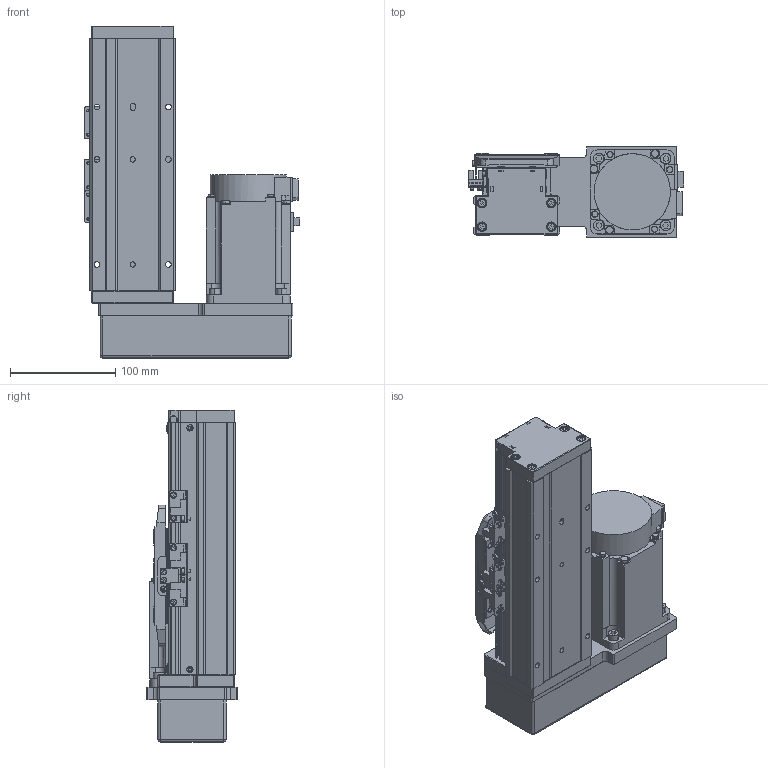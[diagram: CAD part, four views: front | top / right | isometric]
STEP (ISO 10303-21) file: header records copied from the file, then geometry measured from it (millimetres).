
FILE_DESCRIPTION (( 'STEP AP203' ), '1' );
FILE_NAME ('GTH8-50-BR-M75-C4.step', '2023-02-14T02:33:43', ( '微软用户' ), ( '微软中国' ), 'SwSTEP 2.0', 'SolidWorks 2020', '' );
FILE_SCHEMA (( 'CONFIG_CONTROL_DESIGN' ));
Length unit declared in the file: millimetre
Products named in the file (18): GTH80-006; GTH50-024; GTH8-50-BR-M75-C4; GTH80-013; GTH50-023; GBT 70.3-M3℅6; GBT96.1-2002 3×0.8; GTH80-022; BTH-M3X5X6; GTH80-001_50; GBT 70.1-M3℅6; CTHA86-015-3_CTHA86-015-4; GTH80-003; GBT 70.1-M4×16; CTHA86-035; GTH80-004; GTH80-028; hg-kn73j_-s100
Assembly tree (57 placements, depth 2):
  GTH8-50-BR-M75-C4
    GTH80-001_50
    GTH80-003
    GTH80-004
    GTH80-006
    GTH80-013
    GBT 70.3-M3℅6  x4
    GTH80-022
    GBT 70.1-M3℅6  x14
    GBT 70.1-M4×16  x8
    GTH80-028  x2
    GTH50-024  x3
    GTH50-023  x3
    GBT96.1-2002 3×0.8  x6
    BTH-M3X5X6  x8
    CTHA86-015-3_CTHA86-015-4
    CTHA86-035
    hg-kn73j_-s100
Bounding box: 204.7 x 87 x 316 mm (x, y, z)
Volume: 2587891.8 mm3; surface area: 321684.2 mm2
Topology: 59 solids, 59 shells, 2175 faces, 5034 edges, 3080 vertices
Faces by surface type: plane 1153, cylinder 607, cone 243, torus 158, sphere 12, bspline 2
Entity records: 38848 total; most frequent: CARTESIAN_POINT 6527, DIRECTION 6389, ORIENTED_EDGE 5878, EDGE_CURVE 2939, AXIS2_PLACEMENT_3D 2242, VECTOR 1905, LINE 1905, VERTEX_POINT 1855
